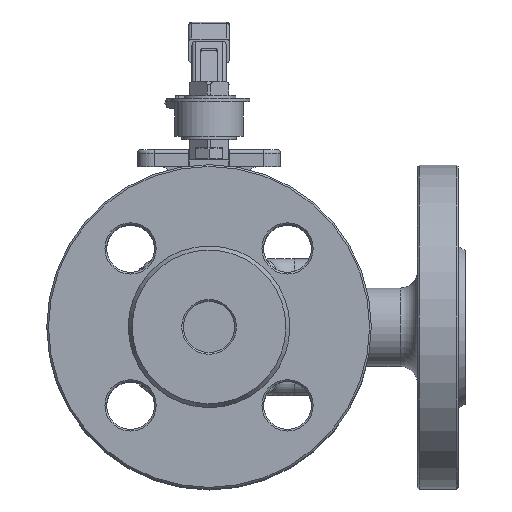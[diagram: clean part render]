
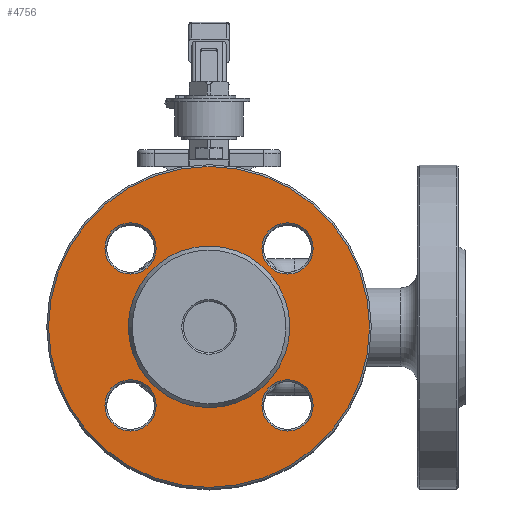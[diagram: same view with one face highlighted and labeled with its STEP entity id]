
A CAD part, top view. The second image highlights one B-rep face of the part: STEP entity #4756.
In plain terms, the highlighted planar face has unit normal (0, 0, 1).
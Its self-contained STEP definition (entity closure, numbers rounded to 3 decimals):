
#4756=ADVANCED_FACE('',(#13428,#13430,#13432,#13434,#13436,#13438),#13440,.T.);
#13428=FACE_BOUND('',#13429,.T.);
#13429=EDGE_LOOP('',(#18194));
#13430=FACE_BOUND('',#13431,.T.);
#13431=EDGE_LOOP('',(#18195));
#13432=FACE_BOUND('',#13433,.T.);
#13433=EDGE_LOOP('',(#18196));
#13434=FACE_BOUND('',#13435,.T.);
#13435=EDGE_LOOP('',(#18197));
#13436=FACE_BOUND('',#13437,.T.);
#13437=EDGE_LOOP('',(#18198));
#13438=FACE_BOUND('',#13439,.T.);
#13439=EDGE_LOOP('',(#18199));
#13440=PLANE('',#13441);
#13441=AXIS2_PLACEMENT_3D('',#13442,#13443,#13444);
#13442=CARTESIAN_POINT('',(0.,0.,73.));
#13443=DIRECTION('',(0.,0.,1.));
#13444=DIRECTION('',(1.,0.,0.));
#18194=ORIENTED_EDGE('',*,*,#20714,.F.);
#18195=ORIENTED_EDGE('',*,*,#20683,.F.);
#18196=ORIENTED_EDGE('',*,*,#20681,.F.);
#18197=ORIENTED_EDGE('',*,*,#20715,.F.);
#18198=ORIENTED_EDGE('',*,*,#20682,.F.);
#18199=ORIENTED_EDGE('',*,*,#20680,.F.);
#20680=EDGE_CURVE('',#23997,#23997,#23998,.T.);
#20681=EDGE_CURVE('',#23999,#23999,#24000,.T.);
#20682=EDGE_CURVE('',#24001,#24001,#24002,.T.);
#20683=EDGE_CURVE('',#24003,#24003,#24004,.T.);
#20714=EDGE_CURVE('',#24061,#24061,#24062,.T.);
#20715=EDGE_CURVE('',#24063,#24063,#24064,.T.);
#23997=VERTEX_POINT('',#42796);
#23998=CIRCLE('',#42797,7.5);
#23999=VERTEX_POINT('',#42801);
#24000=CIRCLE('',#42802,7.5);
#24001=VERTEX_POINT('',#42806);
#24002=CIRCLE('',#42807,7.5);
#24003=VERTEX_POINT('',#42811);
#24004=CIRCLE('',#42812,7.5);
#24061=VERTEX_POINT('',#43304);
#24062=CIRCLE('',#43305,47.);
#24063=VERTEX_POINT('',#43309);
#24064=CIRCLE('',#43310,23.655);
#42796=CARTESIAN_POINT('',(-15.481,-22.981,73.));
#42797=AXIS2_PLACEMENT_3D('',#42798,#42799,#42800);
#42798=CARTESIAN_POINT('',(-22.981,-22.981,73.));
#42799=DIRECTION('',(0.,0.,1.));
#42800=DIRECTION('',(1.,0.,0.));
#42801=CARTESIAN_POINT('',(-15.481,22.981,73.));
#42802=AXIS2_PLACEMENT_3D('',#42803,#42804,#42805);
#42803=CARTESIAN_POINT('',(-22.981,22.981,73.));
#42804=DIRECTION('',(0.,0.,1.));
#42805=DIRECTION('',(1.,0.,0.));
#42806=CARTESIAN_POINT('',(30.481,22.981,73.));
#42807=AXIS2_PLACEMENT_3D('',#42808,#42809,#42810);
#42808=CARTESIAN_POINT('',(22.981,22.981,73.));
#42809=DIRECTION('',(0.,0.,1.));
#42810=DIRECTION('',(1.,0.,0.));
#42811=CARTESIAN_POINT('',(30.481,-22.981,73.));
#42812=AXIS2_PLACEMENT_3D('',#42813,#42814,#42815);
#42813=CARTESIAN_POINT('',(22.981,-22.981,73.));
#42814=DIRECTION('',(0.,0.,1.));
#42815=DIRECTION('',(1.,0.,0.));
#43304=CARTESIAN_POINT('',(47.,0.,73.));
#43305=AXIS2_PLACEMENT_3D('',#43306,#43307,#43308);
#43306=CARTESIAN_POINT('',(0.,0.,73.));
#43307=DIRECTION('',(0.,0.,-1.));
#43308=DIRECTION('',(1.,0.,0.));
#43309=CARTESIAN_POINT('',(23.655,0.,73.));
#43310=AXIS2_PLACEMENT_3D('',#43311,#43312,#43313);
#43311=CARTESIAN_POINT('',(0.,0.,73.));
#43312=DIRECTION('',(0.,0.,1.));
#43313=DIRECTION('',(1.,0.,0.));
